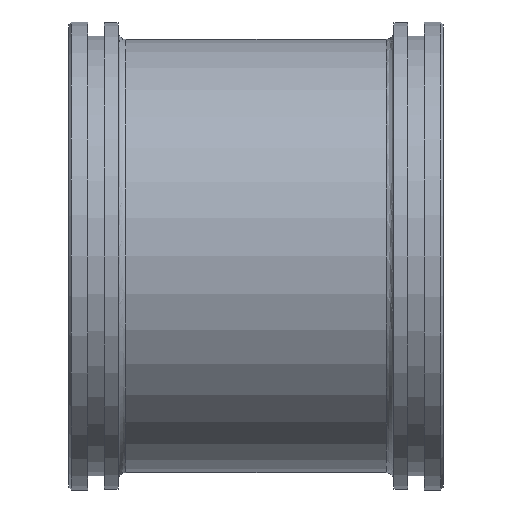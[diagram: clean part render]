
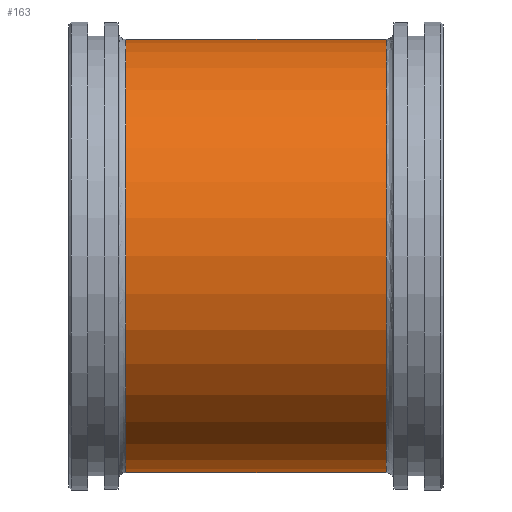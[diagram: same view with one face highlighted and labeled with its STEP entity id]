
A CAD part, front view. The second image highlights one B-rep face of the part: STEP entity #163.
In plain terms, the highlighted cylindrical face has radius 81 mm (diameter 162 mm), a full revolution.
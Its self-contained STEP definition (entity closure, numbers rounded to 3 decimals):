
#121=CARTESIAN_POINT('',(48.7,81.0,0.0));
#122=VERTEX_POINT('',#121);
#123=CARTESIAN_POINT('',(48.7,0.0,0.0));
#124=DIRECTION('',(1.0,0.0,0.0));
#125=DIRECTION('',(0.0,-1.0,0.0));
#126=AXIS2_PLACEMENT_3D('',#123,#124,#125);
#127=CIRCLE('',#126,81.0);
#128=EDGE_CURVE('',#122,#122,#127,.T.);
#144=CARTESIAN_POINT('',(0.,0.0,0.0));
#145=DIRECTION('',(1.0,0.0,0.0));
#146=DIRECTION('',(0.0,1.0,0.0));
#147=AXIS2_PLACEMENT_3D('',#144,#145,#146);
#148=CYLINDRICAL_SURFACE('',#147,81.0);
#149=CARTESIAN_POINT('',(-48.7,81.0,0.));
#150=VERTEX_POINT('',#149);
#151=CARTESIAN_POINT('',(-48.7,0.0,0.0));
#152=DIRECTION('',(-1.0,0.0,0.0));
#153=DIRECTION('',(0.0,-1.0,0.0));
#154=AXIS2_PLACEMENT_3D('',#151,#152,#153);
#155=CIRCLE('',#154,81.0);
#156=EDGE_CURVE('',#150,#150,#155,.T.);
#157=ORIENTED_EDGE('',*,*,#156,.F.);
#158=EDGE_LOOP('',(#157));
#159=FACE_OUTER_BOUND('',#158,.T.);
#160=ORIENTED_EDGE('',*,*,#128,.F.);
#161=EDGE_LOOP('',(#160));
#162=FACE_BOUND('',#161,.T.);
#163=ADVANCED_FACE('',(#159,#162),#148,.T.);
